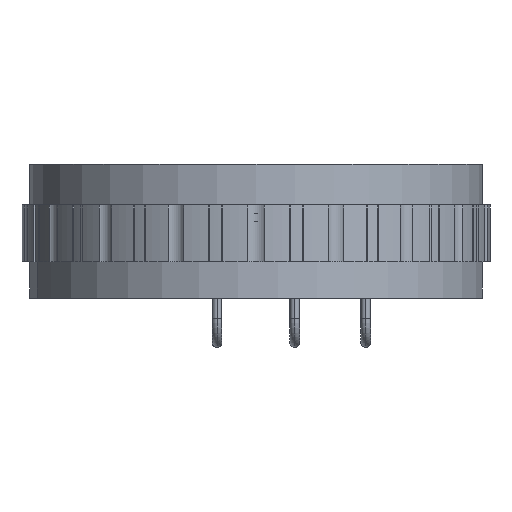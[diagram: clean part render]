
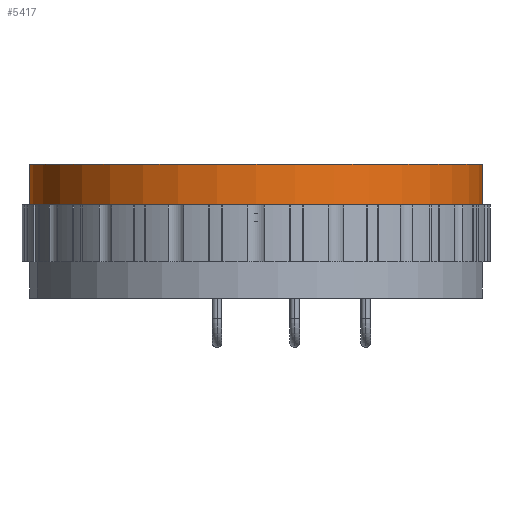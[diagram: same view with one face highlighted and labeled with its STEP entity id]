
A CAD part, front view. The second image highlights one B-rep face of the part: STEP entity #5417.
In plain terms, the highlighted cylindrical face has radius 28 mm (diameter 56 mm), a partial arc.
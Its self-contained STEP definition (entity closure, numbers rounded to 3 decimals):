
#2049 = CARTESIAN_POINT ( 'NONE',  ( -28., 0., 48.55 ) ) ;
#5417 = ADVANCED_FACE ( 'NONE', ( #17950 ), #61167, .T. ) ;
#5494 = EDGE_CURVE ( 'NONE', #40816, #26982, #39710, .T. ) ;
#10108 = LINE ( 'NONE', #19636, #38004 ) ;
#11339 = ORIENTED_EDGE ( 'NONE', *, *, #51002, .F. ) ;
#14346 = CIRCLE ( 'NONE', #54915, 28. ) ;
#14410 = VERTEX_POINT ( 'NONE', #26099 ) ;
#15978 = ORIENTED_EDGE ( 'NONE', *, *, #5494, .F. ) ;
#17604 = VECTOR ( 'NONE', #35128, 1000. ) ;
#17950 = FACE_OUTER_BOUND ( 'NONE', #51913, .T. ) ;
#19636 = CARTESIAN_POINT ( 'NONE',  ( -28., 0., 48.55 ) ) ;
#22413 = CARTESIAN_POINT ( 'NONE',  ( 28., 0., 48.55 ) ) ;
#26099 = CARTESIAN_POINT ( 'NONE',  ( -28., 0., 43.55 ) ) ;
#26982 = VERTEX_POINT ( 'NONE', #22413 ) ;
#27129 = DIRECTION ( 'NONE',  ( 0., 0., 1. ) ) ;
#28567 = AXIS2_PLACEMENT_3D ( 'NONE', #42072, #56063, #32239 ) ;
#30685 = ORIENTED_EDGE ( 'NONE', *, *, #54137, .T. ) ;
#32239 = DIRECTION ( 'NONE',  ( -1., 0., 0. ) ) ;
#33628 = AXIS2_PLACEMENT_3D ( 'NONE', #50347, #40795, #60217 ) ;
#34538 = DIRECTION ( 'NONE',  ( 0., 0., -1. ) ) ;
#35128 = DIRECTION ( 'NONE',  ( 0., 0., -1. ) ) ;
#38004 = VECTOR ( 'NONE', #34538, 1000. ) ;
#39172 = EDGE_CURVE ( 'NONE', #14410, #42390, #14346, .T. ) ;
#39710 = CIRCLE ( 'NONE', #33628, 28. ) ;
#39907 = CARTESIAN_POINT ( 'NONE',  ( 0., 0., 43.55 ) ) ;
#40791 = ORIENTED_EDGE ( 'NONE', *, *, #39172, .T. ) ;
#40795 = DIRECTION ( 'NONE',  ( 0., 0., 1. ) ) ;
#40816 = VERTEX_POINT ( 'NONE', #2049 ) ;
#42072 = CARTESIAN_POINT ( 'NONE',  ( 0., 0., 48.55 ) ) ;
#42390 = VERTEX_POINT ( 'NONE', #61923 ) ;
#49113 = CARTESIAN_POINT ( 'NONE',  ( 28., 0., 48.55 ) ) ;
#50347 = CARTESIAN_POINT ( 'NONE',  ( 0., 0., 48.55 ) ) ;
#50605 = DIRECTION ( 'NONE',  ( -1., 0., 0. ) ) ;
#51002 = EDGE_CURVE ( 'NONE', #26982, #42390, #59302, .T. ) ;
#51913 = EDGE_LOOP ( 'NONE', ( #11339, #15978, #30685, #40791 ) ) ;
#54137 = EDGE_CURVE ( 'NONE', #40816, #14410, #10108, .T. ) ;
#54915 = AXIS2_PLACEMENT_3D ( 'NONE', #39907, #27129, #50605 ) ;
#56063 = DIRECTION ( 'NONE',  ( 0., 0., -1. ) ) ;
#59302 = LINE ( 'NONE', #49113, #17604 ) ;
#60217 = DIRECTION ( 'NONE',  ( 1., 0., 0. ) ) ;
#61167 = CYLINDRICAL_SURFACE ( 'NONE', #28567, 28. ) ;
#61923 = CARTESIAN_POINT ( 'NONE',  ( 28., 0., 43.55 ) ) ;
